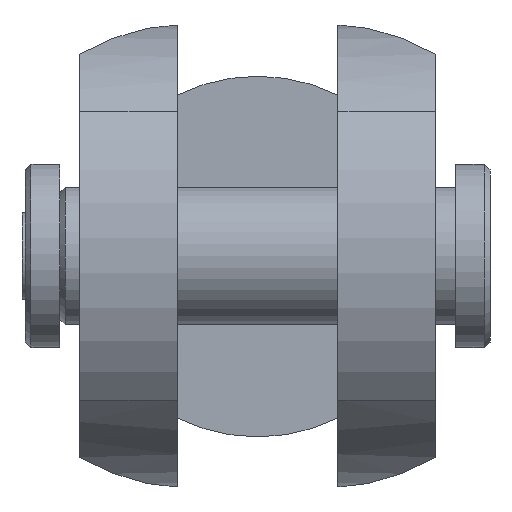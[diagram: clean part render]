
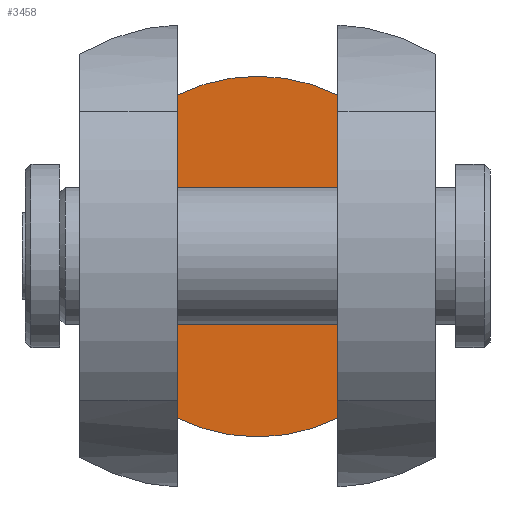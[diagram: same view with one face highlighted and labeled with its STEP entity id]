
A CAD part, top view. The second image highlights one B-rep face of the part: STEP entity #3458.
In plain terms, the highlighted planar face has unit normal (0, 0, 1).
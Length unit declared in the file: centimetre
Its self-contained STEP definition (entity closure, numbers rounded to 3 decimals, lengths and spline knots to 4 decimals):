
#387=LINE('',#5611,#735);
#388=LINE('',#5613,#736);
#735=VECTOR('',#4341,2.8137);
#736=VECTOR('',#4344,2.8137);
#868=PLANE('',#3647);
#1137=FACE_OUTER_BOUND('',#1343,.T.);
#1343=EDGE_LOOP('',(#3011,#3012,#3013,#3014));
#1405=CIRCLE('',#3502,1.5714);
#1406=CIRCLE('',#3503,1.5714);
#1452=VERTEX_POINT('',#4496);
#1453=VERTEX_POINT('',#4500);
#1458=VERTEX_POINT('',#4528);
#1459=VERTEX_POINT('',#4532);
#1762=EDGE_CURVE('',#1452,#1453,#1405,.T.);
#1768=EDGE_CURVE('',#1458,#1459,#1406,.T.);
#2163=EDGE_CURVE('',#1459,#1452,#387,.T.);
#2164=EDGE_CURVE('',#1458,#1453,#388,.T.);
#3011=ORIENTED_EDGE('',*,*,#1768,.F.);
#3012=ORIENTED_EDGE('',*,*,#2164,.T.);
#3013=ORIENTED_EDGE('',*,*,#1762,.F.);
#3014=ORIENTED_EDGE('',*,*,#2163,.F.);
#3458=ADVANCED_FACE('',(#1137),#868,.F.);
#3502=AXIS2_PLACEMENT_3D('',#4501,#3717,#3718);
#3503=AXIS2_PLACEMENT_3D('',#4533,#3719,#3720);
#3647=AXIS2_PLACEMENT_3D('',#5612,#4342,#4343);
#3717=DIRECTION('center_axis',(0.,0.,
-1.));
#3718=DIRECTION('ref_axis',(0.,-1.,0.));
#3719=DIRECTION('center_axis',(0.,0.,
-1.));
#3720=DIRECTION('ref_axis',(0.,-1.,0.));
#4341=DIRECTION('',(0.,1.,0.));
#4342=DIRECTION('center_axis',(0.,0.,
-1.));
#4343=DIRECTION('ref_axis',(-1.,0.,0.));
#4344=DIRECTION('',(0.,1.,0.));
#4496=CARTESIAN_POINT('',(-0.7,1.4069,-2.75));
#4500=CARTESIAN_POINT('',(0.7,1.4069,-2.75));
#4501=CARTESIAN_POINT('Origin',(0.,0.,
-2.75));
#4528=CARTESIAN_POINT('',(0.7,-1.4069,-2.75));
#4532=CARTESIAN_POINT('',(-0.7,-1.4069,-2.75));
#4533=CARTESIAN_POINT('Origin',(0.,0.,
-2.75));
#5611=CARTESIAN_POINT('',(-0.7,0.,-2.75));
#5612=CARTESIAN_POINT('Origin',(0.7,0.,
-2.75));
#5613=CARTESIAN_POINT('',(0.7,0.,-2.75));
